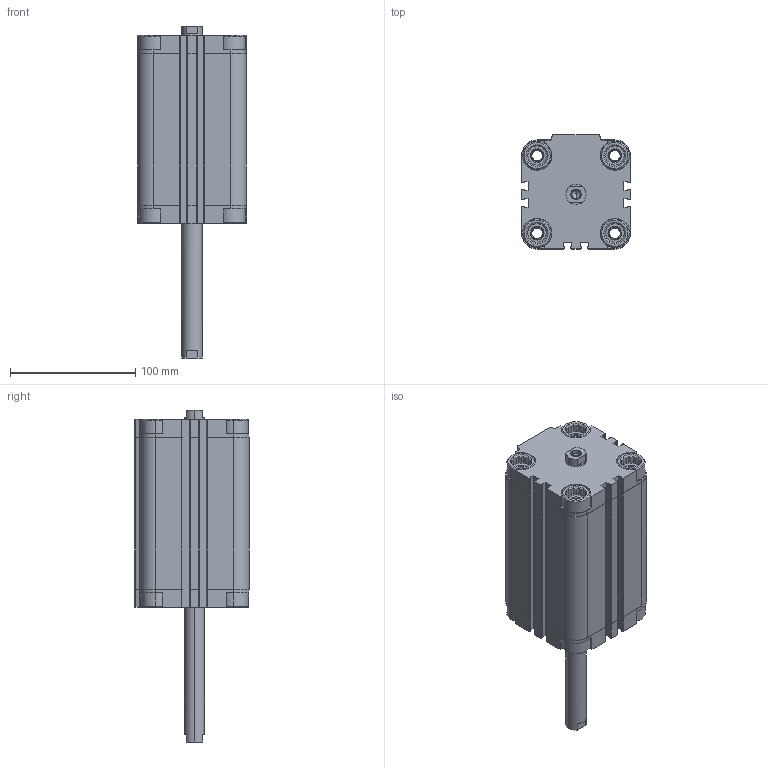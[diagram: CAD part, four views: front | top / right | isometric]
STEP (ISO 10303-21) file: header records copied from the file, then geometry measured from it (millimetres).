
FILE_DESCRIPTION (( 'STEP AP203' ), '1' );
FILE_NAME ('CDVU63-100F-P.STEP', '2020-07-24T18:38:51', ( '' ), ( '' ), 'SwSTEP 2.0', 'SolidWorks 2019', '' );
FILE_SCHEMA (( 'CONFIG_CONTROL_DESIGN' ));
Length unit declared in the file: millimetre
Products named in the file (1): CDVU63-100F-P
Bounding box: 87 x 91 x 265 mm (x, y, z)
Volume: 734038.7 mm3; surface area: 161168.8 mm2
Topology: 2 solids, 2 shells, 622 faces, 1668 edges, 1092 vertices
Faces by surface type: plane 370, cylinder 188, cone 64
Entity records: 19635 total; most frequent: CARTESIAN_POINT 3951, ORIENTED_EDGE 3320, DIRECTION 3170, EDGE_CURVE 1660, VERTEX_POINT 1092, AXIS2_PLACEMENT_3D 1079, LINE 1012, VECTOR 1012
